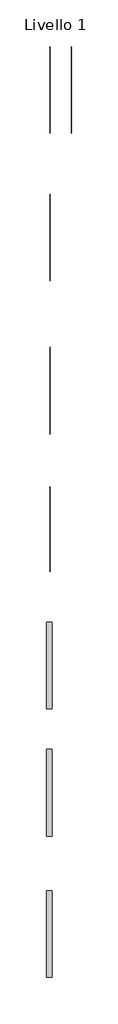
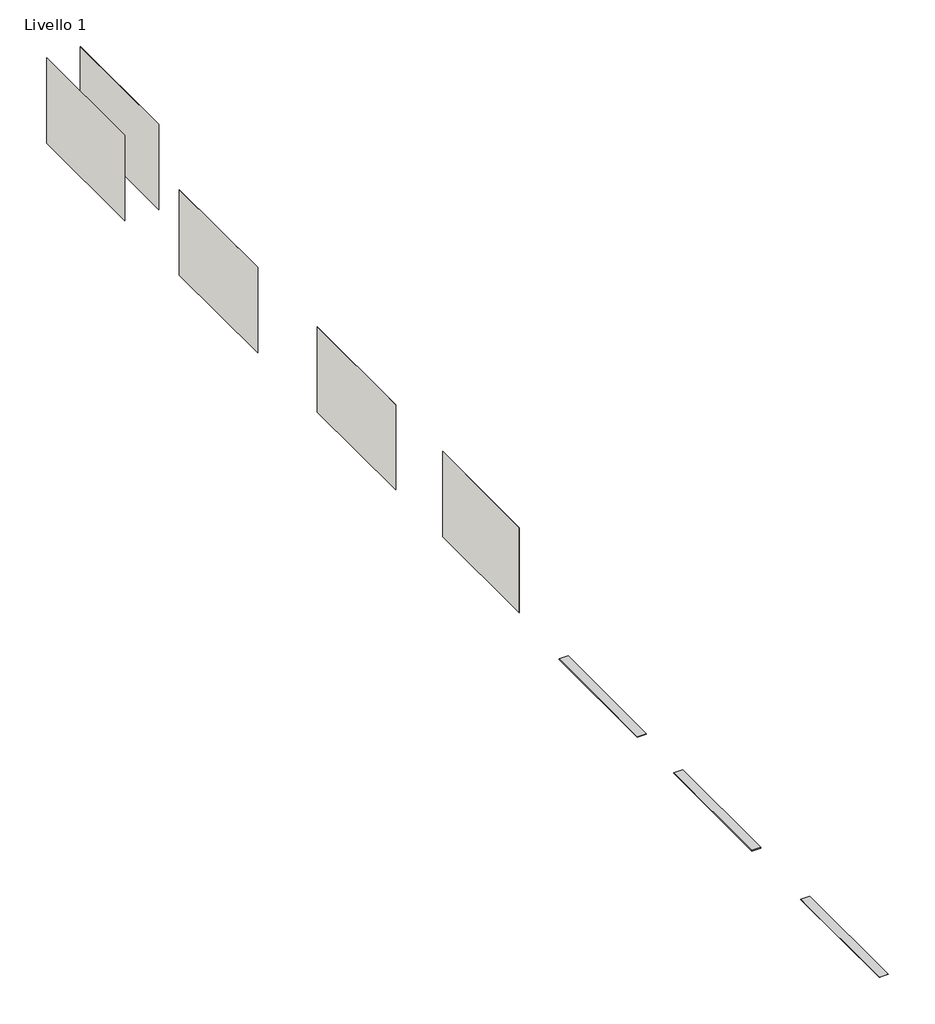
# One storey: 5 walls, 3 fasteners.
"""IFC4 building model written with IfcOpenShell, lengths in millimetres."""

import ifcopenshell
import ifcopenshell.guid

model = None  # the IFC model being written
_history = None  # IfcOwnerHistory: only IFC2X3 demands one
_inside = {}  # id of a spatial element -> (the spatial element, [elements in it])
_under = {}  # id of a project, library or spatial element -> (it, [spatial elements below it])
_declared = {}  # id of a project -> (the project, [libraries it declares])
_typed = {}  # id of a type object -> (the type object, [elements of that type])
_made_of = {}  # id of a material, layer set ... -> (it, [elements and type objects made of it])


def new_model(schema):
    """Start an empty IFC model of exactly this schema.

    Asked for "IFC4X3", IfcOpenShell would pick the latest addendum, in which some entities
    have other attributes; the version numbers below select the first issue.
    IFC2X3 requires an IfcOwnerHistory on every rooted entity: one is made here for all.
    """
    global model, _history
    if schema == "IFC4X3":
        model = ifcopenshell.file(schema_version=(4, 3, 0, 0))
    else:
        model = ifcopenshell.file(schema=schema)
    _inside.clear()
    _under.clear()
    _declared.clear()
    _typed.clear()
    _made_of.clear()
    _history = None
    if model.schema == "IFC2X3":
        org = make("IfcOrganization", Name="unknown")
        user = make(
            "IfcPersonAndOrganization",
            ThePerson=make("IfcPerson", FamilyName="unknown"),
            TheOrganization=org,
        )
        app = make(
            "IfcApplication",
            ApplicationDeveloper=org,
            Version="unknown",
            ApplicationFullName="unknown",
            ApplicationIdentifier="unknown",
        )
        _history = make(
            "IfcOwnerHistory",
            OwningUser=user,
            OwningApplication=app,
            ChangeAction="ADDED",
            CreationDate=0,
        )
    return model


def make(cls, **values):
    """One entity of the class cls with the attributes given. An attribute that is None is left unset."""
    return model.create_entity(
        cls, **{name: value for name, value in values.items() if value is not None}
    )


def rooted(cls, **values):
    """An entity with a GlobalId (a new one), such as an element, a storey or a relation."""
    return make(cls, GlobalId=ifcopenshell.guid.new(), OwnerHistory=_history, **values)


def si_unit(unit_type, name, prefix=None):
    """IfcSIUnit, for example si_unit("LENGTHUNIT", "METRE", prefix="MILLI")."""
    return make("IfcSIUnit", UnitType=unit_type, Prefix=prefix, Name=name)


def assignment(units):
    """IfcUnitAssignment: the units of a project."""
    return None if units is None else make("IfcUnitAssignment", Units=units)


def point(xyz):
    """IfcCartesianPoint."""
    return None if xyz is None else make("IfcCartesianPoint", Coordinates=xyz)


def direction(xyz):
    """IfcDirection."""
    return None if xyz is None else make("IfcDirection", DirectionRatios=xyz)


def frame(location, z_axis=None, x_axis=None):
    """IfcAxis2Placement3D, a coordinate frame: its origin and axes. An axis left out is left unset."""
    return make(
        "IfcAxis2Placement3D",
        Location=point(location),
        Axis=direction(z_axis),
        RefDirection=direction(x_axis),
    )


def origin():
    """The frame at (0, 0, 0) with its axes left unset."""
    return frame((0.0, 0.0, 0.0))


def origin_with_axes():
    """The frame at (0, 0, 0) with the z axis (0, 0, 1) and the x axis (1, 0, 0) written out."""
    return frame((0.0, 0.0, 0.0), z_axis=(0.0, 0.0, 1.0), x_axis=(1.0, 0.0, 0.0))


def place(relative_to, where):
    """IfcLocalPlacement: puts the frame where relative to a parent placement (None: the world)."""
    return make(
        "IfcLocalPlacement", PlacementRelTo=relative_to, RelativePlacement=where
    )


def context(
    kind, dimensions, precision=None, world=None, true_north=None, identifier=None
):
    """IfcGeometricRepresentationContext, for example the 3D "Model" context."""
    return make(
        "IfcGeometricRepresentationContext",
        ContextIdentifier=identifier,
        ContextType=kind,
        CoordinateSpaceDimension=dimensions,
        Precision=precision,
        WorldCoordinateSystem=world,
        TrueNorth=true_north,
    )


def project(units=None, contexts=None):
    """IfcProject with its units and contexts."""
    return rooted(
        "IfcProject",
        Name="project",
        RepresentationContexts=contexts,
        UnitsInContext=assignment(units),
    )


def spatial(cls, under=None, at=None, **own):
    """A site, building, storey or space (cls), placed at a placement, below another one or the project."""
    s = rooted(cls, ObjectPlacement=at, **own)
    if under is not None:
        _under.setdefault(under.id(), (under, []))[1].append(s)
    return s


def polyline(points):
    """IfcPolyline through the points."""
    return make("IfcPolyline", Points=[point(p) for p in points])


def outline(outer, holes=None, kind="AREA"):
    """IfcArbitraryClosedProfileDef: a profile drawn as a closed curve; with holes, ...WithVoids."""
    if holes is None:
        return make("IfcArbitraryClosedProfileDef", ProfileType=kind, OuterCurve=outer)
    return make(
        "IfcArbitraryProfileDefWithVoids",
        ProfileType=kind,
        OuterCurve=outer,
        InnerCurves=holes,
    )


def extrude(swept, where, along, depth):
    """IfcExtrudedAreaSolid: the profile swept, set in the frame where, extruded along a direction by depth."""
    return make(
        "IfcExtrudedAreaSolid",
        SweptArea=swept,
        Position=where,
        ExtrudedDirection=direction(along),
        Depth=depth,
    )


def shape(context_of_items, identifier, shape_type, items):
    """IfcShapeRepresentation: the items that make up one representation, for example the "Body"."""
    return make(
        "IfcShapeRepresentation",
        ContextOfItems=context_of_items,
        RepresentationIdentifier=identifier,
        RepresentationType=shape_type,
        Items=items,
    )


def source(mapping_origin, context_of_items, identifier, shape_type, items):
    """IfcRepresentationMap: a shape defined once, which mapped items show again and again."""
    return make(
        "IfcRepresentationMap",
        MappingOrigin=mapping_origin,
        MappedRepresentation=shape(context_of_items, identifier, shape_type, items),
    )


def transform(
    local_origin,
    x_axis=None,
    y_axis=None,
    z_axis=None,
    scale=None,
    scale2=None,
    scale3=None,
    uniform=True,
):
    """IfcCartesianTransformationOperator3D, or its non-uniform kind. x_axis, y_axis, z_axis: its Axis1, 2, 3."""
    if uniform:
        return make(
            "IfcCartesianTransformationOperator3D",
            Axis1=direction(x_axis),
            Axis2=direction(y_axis),
            LocalOrigin=point(local_origin),
            Scale=scale,
            Axis3=direction(z_axis),
        )
    return make(
        "IfcCartesianTransformationOperator3DnonUniform",
        Axis1=direction(x_axis),
        Axis2=direction(y_axis),
        LocalOrigin=point(local_origin),
        Scale=scale,
        Axis3=direction(z_axis),
        Scale2=scale2,
        Scale3=scale3,
    )


def mapped(mapping_source, mapping_target):
    """IfcMappedItem: shows the shape of a source again, moved by a transform."""
    return make(
        "IfcMappedItem", MappingSource=mapping_source, MappingTarget=mapping_target
    )


def made_of(thing, what):
    """Note that an element or type object is made of a material, layer set ...; save() writes the relation."""
    if what is not None:
        _made_of.setdefault(what.id(), (what, []))[1].append(thing)
    return thing


def element(
    cls,
    number,
    at=None,
    inside=None,
    cuts=None,
    type_object=None,
    material=None,
    context=None,
    identifier="Body",
    shape_type=None,
    held_by="IfcProductDefinitionShape",
    body=None,
    shapes=None,
    **own,
):
    """One element of the class cls, such as IfcWall. Its Tag is "e" and its number.

    at: its placement. inside: the storey or other place that contains it. cuts: it is an
    opening in that element (IfcRelVoidsElement). A single representation is given by context,
    identifier, shape_type and body (its items); several are given by shapes. held_by: the class
    of the entity that holds the representations. save() writes the other relations.
    """
    e = rooted(cls, Tag="e%d" % number, ObjectPlacement=at, **own)
    if body is not None:
        shapes = [shape(context, identifier, shape_type, body)]
    if shapes is not None:
        e.Representation = make(held_by, Representations=shapes)
    if inside is not None:
        _inside.setdefault(inside.id(), (inside, []))[1].append(e)
    if cuts is not None:
        rooted(
            "IfcRelVoidsElement", RelatingBuildingElement=cuts, RelatedOpeningElement=e
        )
    if type_object is not None:
        _typed.setdefault(type_object.id(), (type_object, []))[1].append(e)
    return made_of(e, material)


def aggregate(whole, parts):
    """IfcRelAggregates: a whole, such as a stair, and the parts it consists of."""
    return rooted("IfcRelAggregates", RelatingObject=whole, RelatedObjects=parts)


def save(model, path):
    """Write the relations noted so far, then the file.

    IfcRelAggregates (storeys below a building ...), IfcRelContainedInSpatialStructure (elements
    in a storey), IfcRelDefinesByType, IfcRelAssociatesMaterial and IfcRelDeclares: one each for
    every whole, place, type object, material and project.
    """
    for whole, parts in _under.values():
        aggregate(whole, parts)
    for where, things in _inside.values():
        rooted(
            "IfcRelContainedInSpatialStructure",
            RelatedElements=things,
            RelatingStructure=where,
        )
    for kind, things in _typed.values():
        rooted("IfcRelDefinesByType", RelatedObjects=things, RelatingType=kind)
    for what, things in _made_of.values():
        rooted("IfcRelAssociatesMaterial", RelatedObjects=things, RelatingMaterial=what)
    for by, libraries in _declared.values():
        rooted("IfcRelDeclares", RelatingContext=by, RelatedDefinitions=libraries)
    model.write(path)


def fastener_28812900(model_context):
    return source(origin(), model_context, "Body", "SweptSolid", [
        extrude(outline(polyline([(200.0, 3000.0), (200.0, -3000.0), (-200.0, -3000.0), (-200.0, 3000.0), (200.0, 3000.0)])), origin_with_axes(), (0.0, 0.0, 1.0), 30.0),
    ])


def fastener_5f848f9a(model_context):
    return source(origin(), model_context, "Body", "SweptSolid", [
        extrude(outline(polyline([(200.0, 3000.0), (200.0, -3000.0), (-200.0, -3000.0), (-200.0, 3000.0), (200.0, 3000.0)])), origin_with_axes(), (0.0, 0.0, 1.0), 20.0),
    ])


model = new_model("IFC4")

# Units and contexts
model_context = context("Model", 3, world=origin())
ifc_project = project(units=[si_unit("LENGTHUNIT", "METRE", prefix="MILLI")], contexts=[model_context])

# Site, building, storey
site = spatial("IfcSite", under=ifc_project)
building = spatial("IfcBuilding", under=site)
storey = spatial("IfcBuildingStorey", under=building, Name="Livello 1", Elevation=0.0)

# Fasteners
placement = place(None, origin())
fastener_shape = fastener_28812900(model_context)
element("IfcFastener", 1, ObjectType="GASBETON Malte : Multimalt", at=placement, inside=storey, context=model_context, shape_type="MappedRepresentation", body=[
    mapped(fastener_shape, transform((-10163.5437976, -44437.4720343, 0.0), x_axis=(1.0, 0.0, 0.0), y_axis=(0.0, 1.0, 0.0), z_axis=(0.0, 0.0, 1.0))),
])
element("IfcFastener", 2, ObjectType="GASBETON Malte : Malta ancorante IDRO", at=placement, inside=storey, context=model_context, shape_type="MappedRepresentation", body=[
    mapped(fastener_shape, transform((-10163.5437976, -53237.4720343, 0.0), x_axis=(1.0, 0.0, 0.0), y_axis=(0.0, 1.0, 0.0), z_axis=(0.0, 0.0, 1.0))),
])
fastener_2_shape = fastener_5f848f9a(model_context)
element("IfcFastener", 3, ObjectType="GASBETON Malte : Adesivo GASBETON", at=placement, inside=storey, context=model_context, shape_type="MappedRepresentation", body=[
    mapped(fastener_2_shape, transform((-10163.5437976, -63007.5098462, 0.0), x_axis=(1.0, 0.0, 0.0), y_axis=(0.0, 1.0, 0.0), z_axis=(0.0, 0.0, 1.0))),
])

# Walls
element("IfcWall", 4, ObjectType="GASBETON IncollaRasa M5", at=placement, inside=storey, context=model_context, shape_type="SweptSolid", body=[
    extrude(outline(polyline([(-10120.195698, -7657.4720343), (-10120.195698, -1657.4720343), (-10115.195698, -1657.4720343), (-10115.195698, -7657.4720343), (-10120.195698, -7657.4720343)])), origin_with_axes(), (0.0, 0.0, 1.0), 4000.0),
])
element("IfcWall", 5, ObjectType="GASBETON IncollaRasa M10", at=placement, inside=storey, context=model_context, shape_type="SweptSolid", body=[
    extrude(outline(polyline([(-8615.195698, -7657.4720343), (-8615.195698, -1657.4720343), (-8610.195698, -1657.4720343), (-8610.195698, -7657.4720343), (-8615.195698, -7657.4720343)])), origin_with_axes(), (0.0, 0.0, 1.0), 4000.0),
])
element("IfcWall", 6, ObjectType="GASBETON Multicem", at=placement, inside=storey, context=model_context, shape_type="SweptSolid", body=[
    extrude(outline(polyline([(-10118.695698, -17857.4720343), (-10118.695698, -11857.4720343), (-10116.695698, -11857.4720343), (-10116.695698, -17857.4720343), (-10118.695698, -17857.4720343)])), origin_with_axes(), (0.0, 0.0, 1.0), 4000.0),
])
element("IfcWall", 7, ObjectType="GASBETON Multiraso Esterni", at=placement, inside=storey, context=model_context, shape_type="SweptSolid", body=[
    extrude(outline(polyline([(-10118.695698, -28457.4720343), (-10118.695698, -22457.4720343), (-10116.695698, -22457.4720343), (-10116.695698, -28457.4720343), (-10118.695698, -28457.4720343)])), origin_with_axes(), (0.0, 0.0, 1.0), 4000.0),
])
element("IfcWall", 8, ObjectType="GASBETON Multiraso Interni", at=placement, inside=storey, context=model_context, shape_type="SweptSolid", body=[
    extrude(outline(polyline([(-10118.695698, -37970.6908326), (-10118.695698, -32070.6908326), (-10116.695698, -32070.6908326), (-10116.695698, -37970.6908326), (-10118.695698, -37970.6908326)])), origin_with_axes(), (0.0, 0.0, 1.0), 4000.0),
])

save(model, "model.ifc")
